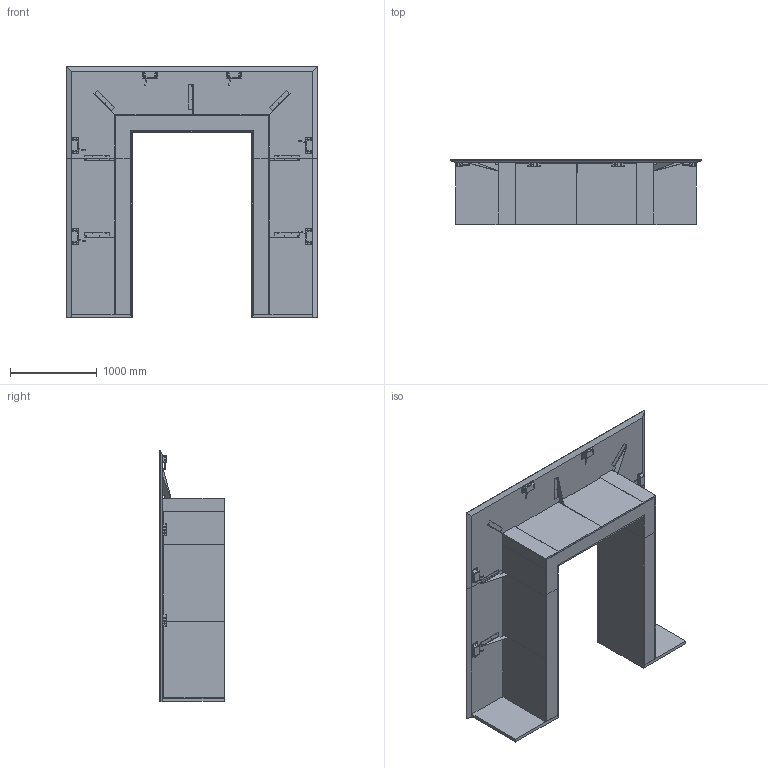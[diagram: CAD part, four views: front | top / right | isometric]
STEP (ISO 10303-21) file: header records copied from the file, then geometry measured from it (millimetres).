
FILE_DESCRIPTION(/* description */ ('','CAx-IF Rec.Pracs.---Representation and Presentation of Product Manufacturing Information (PMI)---4.0---2014-10-13'),/* implementation_level */ '2;1');
FILE_NAME(/* name */ 'TABLE_VIEWLINE 6.stp',/* time_stamp */ '2024-12-07T15:34:45-05:00',/* author */ ('mbowman'),/* organization */ (''),/* preprocessor_version */ 'ST-DEVELOPER v19.2',/* originating_system */ 'Autodesk Inventor 2023',/* authorisation */ '');
FILE_SCHEMA (('AP242_MANAGED_MODEL_BASED_3D_ENGINEERING_MIM_LF { 1 0 10303 442 1 1 4 }'));
Length unit declared in the file: inch
Products named in the file (50): VIEWLINE^TABLE 6_U SHAPED-FULL ASSEMBLY; VIEWLINE^TABLE 6_U SHAPED-HEAD ASSEMBLY; VIEWLINE^TABLE 6_U SHAPED-HEAD TABLE WORKSURFACE; VIEWLINE^TABLE 6_U SHAPED-HEAD BASE LT FRONT; VIEWLINE^TABLE 6_U SHAPED-HEAD BASE CTR FRONT; VIEWLINE^TABLE 6_U SHAPED-HEAD BASE RT FRONT; VIEWLINE^TABLE 6_U SHAPED-HEAD BASE SUB TOP; VIEWLINE^TABLE 6_U SHAPED-HEAD BASE BOTTOM; VIEWLINE^TABLE 6_U SHAPED-HEAD BASE LT SEATED OUT CORNER; VIEWLINE^TABLE 6_U SHAPED-HEAD BASE LT SEATED IN CORNER; VIEWLINE^TABLE 6_U SHAPED-HEAD BASE RT SEATED IN CORNER; VIEWLINE^TABLE 6_U SHAPED-HEAD BASE RT SEATED OUT CORNER; VIEWLINE^TABLE 6_U SHAPED-HEAD BASE LT SEATED LT END RIB; VIEWLINE^TABLE 6_U SHAPED-HEAD BASE RT SEATED RT END RIB; VIEWLINE^TABLE 6_U SHAPED-HEAD BASE LT SEATED LT END ACCESS; VIEWLINE^TABLE 6_U SHAPED-HEAD BASE RT SEATED RT END ACCESS; VIEWLINE^TABLE 6_U SHAPED-HEAD BASE LT SEATED LT SEATED RIB; VIEWLINE^TABLE 6_U SHAPED-HEAD BASE RT SEATED RT SEATED RIB; VIEWLINE^TABLE 6_U SHAPED-HEAD BASE SEATED CENTER RIB; VIEWLINE^TABLE 6_U SHAPED-HEAD BASE SEATED RT ACCESS; VIEWLINE^TABLE 6_U SHAPED-HEAD BASE SEATED LT ACCESS; CANTILEVER BRACKET H-496-45L; CANTILEVER BRACKET H-496-45L_MIR; VIEWLINE^TABLE 6_U SHAPED-LEFT ASSEMBLY; VIEWLINE^TABLE 6_U SHAPED-LEFT END WORKSURFACE; VIEWLINE^TABLE 6_U SHAPED-LT WALL LEFT END; VIEWLINE^TABLE 6_U SHAPED-LT WALL FRONT; VIEWLINE^TABLE 6_U SHAPED-LT WALL SUB TOP; VIEWLINE^TABLE 6_U SHAPED-LT WALL BOTTOM; VIEWLINE^TABLE 6_U SHAPED-LT WALL LT END RIB; VIEWLINE^TABLE 6_U SHAPED-LT WALL RT END RIB; VIEWLINE^TABLE 6_U SHAPED-LT WALL CTR RIB; VIEWLINE^TABLE 6_U SHAPED-LT WALL LT ACCESS; VIEWLINE^TABLE 6_U SHAPED-LT WALL RT ACCESS; CANTILEVER BRACKET H-496_MIR1; VIEWLINE^TABLE 6_U SHAPED-RIGHT ASSEMBLY; VIEWLINE^TABLE 6_U SHAPED-RT WALL LT ACCESS; VIEWLINE^TABLE 6_U SHAPED-RT WALL RT ACCESS; VIEWLINE^TABLE 6_U SHAPED-RT WALL CTR RIB; VIEWLINE^TABLE 6_U SHAPED-RT WALL RT END RIB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
Assembly tree (57 placements, depth 4):
  VIEWLINE^TABLE 6_U SHAPED-FULL ASSEMBLY
    VIEWLINE^TABLE 6_U SHAPED-HEAD ASSEMBLY
      VIEWLINE^TABLE 6_U SHAPED-HEAD TABLE WORKSURFACE
      VIEWLINE^TABLE 6_U SHAPED-HEAD BASE LT FRONT
      VIEWLINE^TABLE 6_U SHAPED-HEAD BASE CTR FRONT
      VIEWLINE^TABLE 6_U SHAPED-HEAD BASE RT FRONT
      VIEWLINE^TABLE 6_U SHAPED-HEAD BASE SUB TOP
      VIEWLINE^TABLE 6_U SHAPED-HEAD BASE BOTTOM
      VIEWLINE^TABLE 6_U SHAPED-HEAD BASE LT SEATED OUT CORNER
      VIEWLINE^TABLE 6_U SHAPED-HEAD BASE LT SEATED IN CORNER
      VIEWLINE^TABLE 6_U SHAPED-HEAD BASE RT SEATED IN CORNER
      VIEWLINE^TABLE 6_U SHAPED-HEAD BASE RT SEATED OUT CORNER
      VIEWLINE^TABLE 6_U SHAPED-HEAD BASE LT SEATED LT END RIB
      VIEWLINE^TABLE 6_U SHAPED-HEAD BASE RT SEATED RT END RIB
      VIEWLINE^TABLE 6_U SHAPED-HEAD BASE LT SEATED LT END ACCESS
      VIEWLINE^TABLE 6_U SHAPED-HEAD BASE RT SEATED RT END ACCESS
      VIEWLINE^TABLE 6_U SHAPED-HEAD BASE LT SEATED LT SEATED RIB
      VIEWLINE^TABLE 6_U SHAPED-HEAD BASE RT SEATED RT SEATED RIB
      VIEWLINE^TABLE 6_U SHAPED-HEAD BASE SEATED CENTER RIB
      VIEWLINE^TABLE 6_U SHAPED-HEAD BASE SEATED RT ACCESS
      VIEWLINE^TABLE 6_U SHAPED-HEAD BASE SEATED LT ACCESS
      CANTILEVER BRACKET H-496
      CANTILEVER BRACKET H-496-45L
      CANTILEVER BRACKET H-496-45L_MIR
      ASHLEY DUO UNDERMOUNT ASSY  x4
        DESK POWER UNIT UNDERMOUNT PLATE
        DESK POWER UNIT_ASHLEY DUO
    VIEWLINE^TABLE 6_U SHAPED-LEFT ASSEMBLY
      VIEWLINE^TABLE 6_U SHAPED-LEFT END WORKSURFACE
      VIEWLINE^TABLE 6_U SHAPED-LT WALL LEFT END
      VIEWLINE^TABLE 6_U SHAPED-LT WALL FRONT
      VIEWLINE^TABLE 6_U SHAPED-LT WALL SUB TOP
      VIEWLINE^TABLE 6_U SHAPED-LT WALL BOTTOM
      VIEWLINE^TABLE 6_U SHAPED-LT WALL LT END RIB
      VIEWLINE^TABLE 6_U SHAPED-LT WALL RT END RIB
      VIEWLINE^TABLE 6_U SHAPED-LT WALL CTR RIB
      VIEWLINE^TABLE 6_U SHAPED-LT WALL LT ACCESS
      VIEWLINE^TABLE 6_U SHAPED-LT WALL RT ACCESS
      CANTILEVER BRACKET H-496_MIR1  x2
      ASHLEY DUO UNDERMOUNT ASSY
        DESK POWER UNIT UNDERMOUNT PLATE
        DESK POWER UNIT_ASHLEY DUO
    VIEWLINE^TABLE 6_U SHAPED-RIGHT ASSEMBLY
      VIEWLINE^TABLE 6_U SHAPED-RT WALL LT ACCESS
      VIEWLINE^TABLE 6_U SHAPED-RT WALL RT ACCESS
      VIEWLINE^TABLE 6_U SHAPED-RT WALL CTR RIB
      VIEWLINE^TABLE 6_U SHAPED-RT WALL RT END RIB
      VIEWLINE^TABLE 6_U SHAPED-RT WALL LT END RIB
      VIEWLINE^TABLE 6_U SHAPED-RT WALL BOTTOM
      VIEWLINE^TABLE 6_U SHAPED-RT WALL SUB TOP
      VIEWLINE^TABLE 6_U SHAPED-RT WALL FRONT
      VIEWLINE^TABLE 6_U SHAPED-RT WALL RIGHT END
      VIEWLINE^TABLE 6_U SHAPED-RIGHT END WORKSURFACE
      CANTILEVER BRACKET H-496  x2
      ASHLEY DUO UNDERMOUNT ASSY
        DESK POWER UNIT UNDERMOUNT PLATE
        DESK POWER UNIT_ASHLEY DUO
Bounding box: 2895.6 x 742.95 x 2895.6 mm (x, y, z)
Volume: 439062796.7 mm3; surface area: 39668311.5 mm2
Topology: 64 solids, 64 shells, 979 faces, 2367 edges, 1564 vertices
Faces by surface type: plane 717, cylinder 220, cone 36, bspline 6
Full cylindrical faces by diameter (mm): 4.762 x63, 5.563 x24, 6.35 x12, 8.636 x24
Entity records: 21893 total; most frequent: CARTESIAN_POINT 4047, DIRECTION 3647, ORIENTED_EDGE 2316, AXIS2_PLACEMENT_3D 1337, EDGE_CURVE 1158, LINE 973, VECTOR 973, STYLED_ITEM 848
